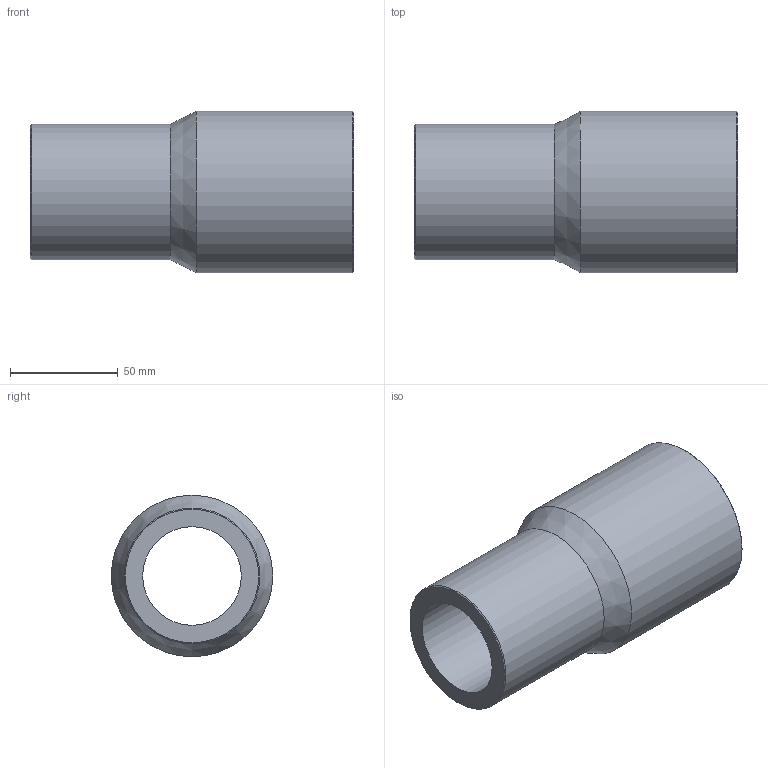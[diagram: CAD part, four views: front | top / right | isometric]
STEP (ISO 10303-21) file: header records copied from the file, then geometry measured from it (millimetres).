
FILE_DESCRIPTION(/* description */ ('Unknown'),/* implementation_level */ '2;1');
FILE_NAME(/* name */ 'RP075063H',/* time_stamp */ '2021-09-16T11:36:08+02:00',/* author */ ('Unknown'),/* organization */ ('Unknown'),/* preprocessor_version */ 'ST-DEVELOPER v16.7',/* originating_system */ 'Solid Edge',/* authorisation */ 'Unknown');
FILE_SCHEMA (('AUTOMOTIVE_DESIGN {1 0 10303 214 3 1 1}'));
Length unit declared in the file: millimetre
Products named in the file (1): RP075063H
Bounding box: 150 x 75 x 75 mm (x, y, z)
Volume: 272309.3 mm3; surface area: 60119.7 mm2
Topology: 1 solids, 1 shells, 10 faces, 19 edges, 11 vertices
Faces by surface type: cylinder 4, cone 4, plane 2
Full cylindrical faces by diameter (mm): 45.8 x1, 54.4 x1, 63 x1, 75 x1
Entity records: 238 total; most frequent: DIRECTION 42, CARTESIAN_POINT 31, AXIS2_PLACEMENT_3D 21, ORIENTED_EDGE 20, EDGE_LOOP 20, FACE_BOUND 20, EDGE_CURVE 10, VERTEX_POINT 10
